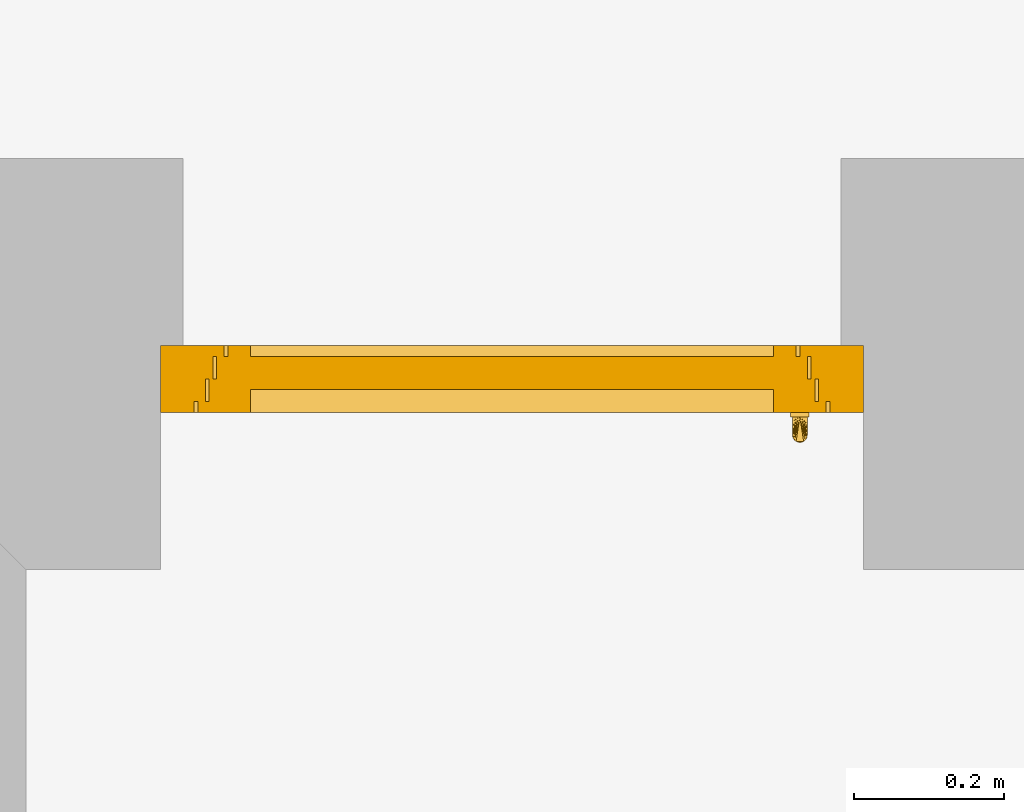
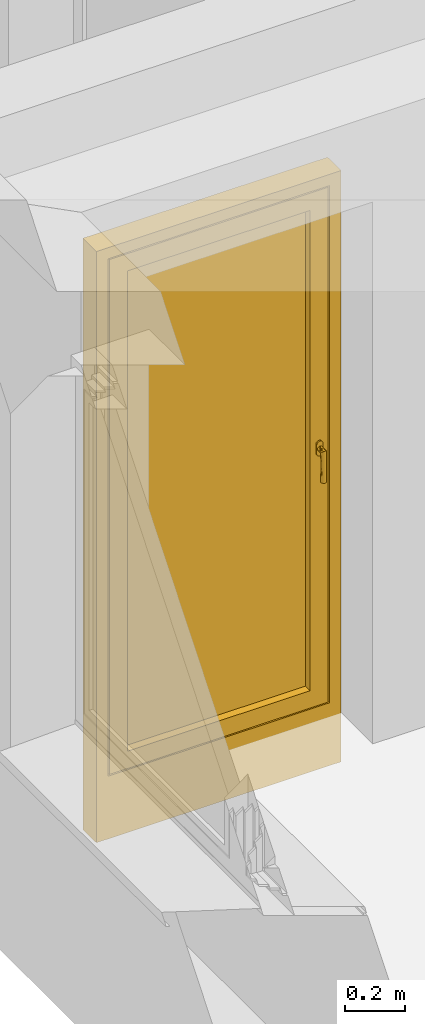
# One storey, part 12 of 18: 1 window.
"""IFC2X3 building model written with IfcOpenShell, lengths in metres."""

from ifc_helpers import new_model, entity, si_unit, converted_unit, derived_unit, direction, frame, origin, origin_2d_with_axis, place, context, subcontext, project, spatial, rectangle, extrude, faceted_brep, source, transform, mapped, material, material_list, type_object, type_shapes, element, save


model = new_model("IFC2X3")

# Units and contexts
model_context = context("Model", 3, precision=1e-05, world=origin(), true_north=direction((6.123233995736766e-17, 1.0)))
body_context = subcontext(model_context, "Body", "Model", "MODEL_VIEW")
ifc_project = project(units=[si_unit("LENGTHUNIT", "METRE"), si_unit("AREAUNIT", "SQUARE_METRE"), si_unit("VOLUMEUNIT", "CUBIC_METRE"), si_unit("POWERUNIT", "WATT"), derived_unit("USERDEFINED", [(si_unit("MASSUNIT", "GRAM", prefix="KILO"), 1), (si_unit("TIMEUNIT", "SECOND"), -3)]), derived_unit("THERMALRESISTANCEUNIT", [(si_unit("MASSUNIT", "GRAM", prefix="KILO"), -1), (si_unit("TIMEUNIT", "SECOND"), 3), (si_unit("THERMODYNAMICTEMPERATUREUNIT", "KELVIN"), 1)]), derived_unit("USERDEFINED", [(si_unit("MASSUNIT", "GRAM", prefix="KILO"), 1), (si_unit("TIMEUNIT", "SECOND"), -2), (si_unit("THERMODYNAMICTEMPERATUREUNIT", "KELVIN"), -1)]), derived_unit("THERMALTRANSMITTANCEUNIT", [(si_unit("MASSUNIT", "GRAM", prefix="KILO"), 1), (si_unit("TIMEUNIT", "SECOND"), -3), (si_unit("THERMODYNAMICTEMPERATUREUNIT", "KELVIN"), -1)]), converted_unit("PLANEANGLEUNIT", "DEGREE", entity("IfcPlaneAngleMeasure", 0.017453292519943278), si_unit("PLANEANGLEUNIT", "RADIAN"), dimensions=[0, 0, 0, 0, 0, 0, 0]), derived_unit("MOMENTOFINERTIAUNIT", [(si_unit("LENGTHUNIT", "METRE"), 4)])], contexts=[model_context])

# Site, building, storey
site_placement = place(None, origin())
site = spatial("IfcSite", under=ifc_project, at=site_placement, Name="Default", CompositionType="ELEMENT")
building_placement = place(site_placement, origin())
building = spatial("IfcBuilding", under=site, at=building_placement, CompositionType="ELEMENT")
storey_placement = place(building_placement, frame((0.0, 0.0, 2.6)))
storey = spatial("IfcBuildingStorey", under=building, at=storey_placement, Name="Erdgeschoss", CompositionType="ELEMENT", Elevation=2.6)

# Window
ifc_material_1 = material(Name="Glas - Isolierverglasung klar")
ifc_material_2 = material(Name="Metall - Edelstahl gebürstet")
ifc_material_3 = material(Name="Kunststoff - grau 70-70-70")
ifc_material_list = material_list([ifc_material_1, ifc_material_2, ifc_material_3])
window_style = type_object("IfcWindowStyle", Name="FE TÜR 1 tlg - DrehKipp:940 x 2200", ConstructionType="NOTDEFINED", OperationType="NOTDEFINED", ParameterTakesPrecedence=False, Sizeable=False, material=ifc_material_list)
shared_shape = source(origin(), body_context, "Body", "SolidModel", [
    extrude(rectangle(XDim=0.04399999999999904, YDim=0.7000000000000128, at=origin_2d_with_axis()), frame((0.47000000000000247, 0.26300000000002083, 0.3300000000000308), z_axis=(0.0, 0.0, 1.0), x_axis=(0.0, -1.0, 0.0)), (0.0, 0.0, 1.0), 1.949999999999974),
    faceted_brep([(0.8670740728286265, 0.21000000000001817, 1.2842647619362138), (0.8658253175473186, 0.21000000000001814, 1.2812499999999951), (0.863838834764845, 0.21000000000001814, 1.2786611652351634), (0.8612500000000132, 0.21000000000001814, 1.2766746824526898), (0.8582352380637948, 0.21000000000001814, 1.2754259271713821), (0.8550000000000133, 0.21000000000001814, 1.2749999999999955), (0.8517647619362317, 0.21000000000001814, 1.2754259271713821), (0.8487500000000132, 0.21000000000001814, 1.2766746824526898), (0.8461611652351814, 0.21000000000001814, 1.2786611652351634), (0.8441746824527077, 0.21000000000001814, 1.2812499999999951), (0.8429259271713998, 0.21000000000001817, 1.2842647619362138), (0.8425000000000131, 0.21000000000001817, 1.2874999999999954), (0.8425000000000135, 0.21000000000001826, 1.3049999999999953), (0.8425000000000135, 0.21000000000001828, 1.3224999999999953), (0.8429259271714, 0.2100000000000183, 1.3257352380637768), (0.8441746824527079, 0.2100000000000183, 1.3287499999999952), (0.8461611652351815, 0.2100000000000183, 1.3313388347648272), (0.8487500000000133, 0.2100000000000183, 1.3333253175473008), (0.8517647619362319, 0.2100000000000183, 1.3345740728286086), (0.8550000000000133, 0.2100000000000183, 1.3349999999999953), (0.8582352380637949, 0.2100000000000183, 1.3345740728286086), (0.8612500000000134, 0.2100000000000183, 1.3333253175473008), (0.8638388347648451, 0.2100000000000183, 1.3313388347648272), (0.8658253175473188, 0.2100000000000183, 1.3287499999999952), (0.8670740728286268, 0.2100000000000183, 1.3257352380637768), (0.8675000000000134, 0.21000000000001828, 1.3224999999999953), (0.8675000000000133, 0.21000000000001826, 1.3049999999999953), (0.8675000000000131, 0.21000000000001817, 1.2874999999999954), (0.864659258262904, 0.17741180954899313, 1.3075881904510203), (0.8600000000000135, 0.20400000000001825, 1.3136602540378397), (0.8636602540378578, 0.17500000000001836, 1.3099999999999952), (0.8575881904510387, 0.20400000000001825, 1.314659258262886), (0.8620710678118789, 0.17292893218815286, 1.3120710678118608), (0.8575881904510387, 0.1703407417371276, 1.314659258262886), (0.8600000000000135, 0.1713397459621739, 1.3136602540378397), (0.8500000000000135, 0.17133974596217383, 1.31366025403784), (0.8524118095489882, 0.17034074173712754, 1.3146592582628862), (0.8550000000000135, 0.17000000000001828, 1.3149999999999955), (0.8550000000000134, 0.20400000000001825, 1.3149999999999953), (0.864659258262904, 0.20400000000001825, 1.3075881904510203), (0.8650000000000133, 0.18000000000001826, 1.3049999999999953), (0.8650000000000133, 0.18292891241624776, 1.3049999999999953), (0.8650000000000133, 0.18585782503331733, 1.3049999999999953), (0.8650000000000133, 0.19171565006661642, 1.3049999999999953), (0.8650000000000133, 0.20400000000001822, 1.3049999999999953), (0.8636602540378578, 0.20400000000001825, 1.3099999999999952), (0.8620710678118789, 0.20400000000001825, 1.3120710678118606), (0.8479289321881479, 0.1729289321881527, 1.3120710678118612), (0.8453407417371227, 0.1774118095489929, 1.307588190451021), (0.846339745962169, 0.17500000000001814, 1.3099999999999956), (0.8500000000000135, 0.20400000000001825, 1.31366025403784), (0.8524118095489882, 0.20400000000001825, 1.314659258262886), (0.8450000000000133, 0.1800000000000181, 1.3049999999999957), (0.8479289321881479, 0.20400000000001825, 1.3120710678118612), (0.846339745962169, 0.20400000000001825, 1.3099999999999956), (0.8453407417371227, 0.20400000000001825, 1.307588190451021), (0.8450000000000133, 0.20400000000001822, 1.3049999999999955), (0.8450000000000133, 0.19171564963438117, 1.3049999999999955), (0.8450000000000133, 0.18585782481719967, 1.3049999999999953), (0.8450000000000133, 0.18292891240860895, 1.3049999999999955), (0.8463397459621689, 0.1850000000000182, 1.2999999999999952), (0.8479289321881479, 0.1870710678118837, 1.2979289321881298), (0.8453407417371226, 0.18258819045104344, 1.3024118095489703), (0.8453407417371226, 0.20400000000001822, 1.30241180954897), (0.8636602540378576, 0.18500000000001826, 1.2999999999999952), (0.864659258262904, 0.18258819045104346, 1.30241180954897), (0.864659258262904, 0.20400000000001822, 1.30241180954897), (0.8479289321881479, 0.2040000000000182, 1.2979289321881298), (0.8524118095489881, 0.18965925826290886, 1.2953407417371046), (0.8500000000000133, 0.18866025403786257, 1.2963397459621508), (0.8463397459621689, 0.20400000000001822, 1.2999999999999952), (0.8500000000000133, 0.2040000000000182, 1.2963397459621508), (0.8524118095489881, 0.2040000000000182, 1.2953407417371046), (0.8550000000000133, 0.2040000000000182, 1.2949999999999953), (0.8550000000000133, 0.19000000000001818, 1.2949999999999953), (0.8600000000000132, 0.1886602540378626, 1.2963397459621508), (0.8620710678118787, 0.1870710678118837, 1.2979289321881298), (0.8620710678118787, 0.2040000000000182, 1.2979289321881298), (0.8575881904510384, 0.1896592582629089, 1.2953407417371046), (0.8575881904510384, 0.2040000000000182, 1.2953407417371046), (0.8600000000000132, 0.2040000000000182, 1.2963397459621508), (0.8636602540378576, 0.20400000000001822, 1.2999999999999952), (0.8636602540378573, 0.18500000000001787, 1.1849999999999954), (0.8646592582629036, 0.18258819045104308, 1.1849999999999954), (0.8650000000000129, 0.1800000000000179, 1.1849999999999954), (0.8646592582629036, 0.17741180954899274, 1.1849999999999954), (0.8636602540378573, 0.17500000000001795, 1.1849999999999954), (0.8620710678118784, 0.17292893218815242, 1.1849999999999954), (0.860000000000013, 0.17133974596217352, 1.1849999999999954), (0.8575881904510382, 0.17034074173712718, 1.1849999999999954), (0.855000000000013, 0.17000000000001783, 1.1849999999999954), (0.8524118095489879, 0.17034074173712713, 1.1849999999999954), (0.8500000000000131, 0.1713397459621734, 1.1849999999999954), (0.8479289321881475, 0.17292893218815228, 1.1849999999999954), (0.8463397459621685, 0.17500000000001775, 1.1849999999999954), (0.8453407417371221, 0.17741180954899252, 1.1849999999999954), (0.8450000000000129, 0.18000000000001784, 1.1849999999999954), (0.8453407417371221, 0.18258819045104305, 1.1849999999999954), (0.8463397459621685, 0.18500000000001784, 1.1849999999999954), (0.8479289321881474, 0.1870710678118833, 1.1849999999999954), (0.8500000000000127, 0.1886602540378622, 1.1849999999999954), (0.8524118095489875, 0.18965925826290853, 1.1849999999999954), (0.8550000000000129, 0.19000000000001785, 1.1849999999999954), (0.8575881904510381, 0.18965925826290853, 1.1849999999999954), (0.860000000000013, 0.18866025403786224, 1.1849999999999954), (0.8620710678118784, 0.18707106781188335, 1.1849999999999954), (0.8650000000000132, 0.1800000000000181, 1.2497913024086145), (0.8650000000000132, 0.18000000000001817, 1.2773956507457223), (0.8450000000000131, 0.18000000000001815, 1.2773956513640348), (0.8450000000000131, 0.18000000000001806, 1.2497913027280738), (0.8461611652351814, 0.20400000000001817, 1.2786611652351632), (0.8441746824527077, 0.20400000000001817, 1.2812499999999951), (0.8487500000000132, 0.2040000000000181, 1.2766746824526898), (0.8517647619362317, 0.2040000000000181, 1.275425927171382), (0.8550000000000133, 0.2040000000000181, 1.2749999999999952), (0.8582352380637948, 0.2040000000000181, 1.275425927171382), (0.8612500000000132, 0.2040000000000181, 1.2766746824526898), (0.863838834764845, 0.20400000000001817, 1.2786611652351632), (0.8658253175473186, 0.20400000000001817, 1.2812499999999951), (0.8670740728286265, 0.20400000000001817, 1.2842647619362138), (0.8675000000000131, 0.2040000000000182, 1.2874999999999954), (0.8675000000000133, 0.20400000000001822, 1.3049999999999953), (0.8675000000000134, 0.2040000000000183, 1.3224999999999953), (0.8670740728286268, 0.2040000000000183, 1.3257352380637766), (0.8658253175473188, 0.20400000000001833, 1.3287499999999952), (0.8638388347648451, 0.20400000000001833, 1.3313388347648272), (0.8612500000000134, 0.20400000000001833, 1.3333253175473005), (0.8582352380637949, 0.20400000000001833, 1.3345740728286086), (0.8550000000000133, 0.20400000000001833, 1.3349999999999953), (0.8517647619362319, 0.20400000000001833, 1.3345740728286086), (0.8487500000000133, 0.20400000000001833, 1.3333253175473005), (0.8461611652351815, 0.20400000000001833, 1.3313388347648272), (0.8441746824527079, 0.20400000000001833, 1.3287499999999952), (0.8429259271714, 0.2040000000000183, 1.3257352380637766), (0.8425000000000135, 0.2040000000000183, 1.3224999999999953), (0.8425000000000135, 0.20400000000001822, 1.3049999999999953), (0.8425000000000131, 0.2040000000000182, 1.2874999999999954), (0.8429259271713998, 0.20400000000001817, 1.2842647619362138)], [[[0, 1, 2, 3, 4, 5, 6, 7, 8, 9, 10, 11, 12, 13, 14, 15, 16, 17, 18, 19, 20, 21, 22, 23, 24, 25, 26, 27]], [[28, 29, 30]], [[30, 31, 32]], [[33, 34, 35, 36, 37]], [[38, 32, 31]], [[34, 32, 38]], [[39, 40, 41, 42, 43, 44]], [[45, 40, 39]], [[40, 45, 46]], [[29, 28, 46]], [[46, 28, 40]], [[29, 31, 30]], [[38, 35, 34]], [[35, 38, 47]], [[48, 49, 50]], [[51, 49, 47]], [[52, 48, 53]], [[47, 38, 51]], [[49, 51, 50]], [[52, 53, 54]], [[55, 56, 57, 58, 59, 52]], [[55, 52, 54]], [[53, 48, 50]], [[60, 57, 61]], [[59, 58, 62, 52]], [[56, 63, 57]], [[64, 43, 42]], [[41, 40, 65, 42]], [[44, 43, 66]], [[67, 68, 69]], [[67, 69, 57]], [[69, 61, 57]], [[63, 70, 57]], [[67, 71, 68]], [[67, 57, 70]], [[72, 68, 71]], [[72, 73, 74, 68]], [[75, 43, 76]], [[77, 75, 78]], [[65, 64, 42]], [[76, 43, 64]], [[79, 78, 74, 73]], [[78, 79, 80]], [[62, 58, 60]], [[43, 75, 77]], [[60, 58, 57]], [[81, 66, 43]], [[77, 81, 43]], [[77, 78, 80]], [[82, 83, 84, 85, 86, 87, 88, 89, 90, 91, 92, 93, 94, 95, 96, 97, 98, 99, 100, 101, 102, 103, 104, 105]], [[85, 84, 106, 107, 40]], [[85, 40, 86]], [[34, 33, 89, 88]], [[87, 86, 28]], [[88, 87, 32, 34]], [[28, 30, 87]], [[86, 40, 28]], [[87, 30, 32]], [[33, 37, 90, 89]], [[47, 93, 92, 35]], [[35, 92, 91, 36]], [[95, 52, 108, 109, 96]], [[52, 95, 94]], [[48, 94, 93]], [[90, 37, 36, 91]], [[47, 49, 93]], [[49, 48, 93]], [[48, 52, 94]], [[99, 98, 109]], [[97, 109, 98]], [[109, 68, 101]], [[101, 100, 109]], [[100, 99, 109]], [[96, 109, 97]], [[108, 52, 62]], [[108, 62, 60]], [[102, 101, 68, 74]], [[68, 109, 69]], [[61, 69, 109]], [[60, 61, 108]], [[65, 107, 64]], [[108, 61, 109]], [[104, 106, 105]], [[103, 106, 104]], [[83, 106, 84]], [[107, 65, 40]], [[82, 106, 83]], [[105, 106, 82]], [[103, 102, 74, 78]], [[78, 106, 103]], [[75, 76, 106]], [[76, 107, 106]], [[106, 78, 75]], [[76, 64, 107]], [[110, 73, 111]], [[112, 73, 110]], [[112, 113, 73]], [[114, 73, 113]], [[115, 73, 114]], [[115, 116, 73]], [[117, 73, 116]], [[117, 118, 73]], [[118, 79, 73]], [[79, 118, 119]], [[119, 120, 79]], [[120, 80, 79]], [[120, 77, 80]], [[77, 120, 81]], [[81, 120, 121]], [[66, 81, 121]], [[44, 66, 121]], [[39, 44, 121]], [[45, 39, 121]], [[45, 121, 122]], [[122, 46, 45]], [[122, 29, 46]], [[122, 31, 29]], [[122, 123, 31]], [[124, 31, 123]], [[124, 38, 31]], [[125, 38, 124]], [[38, 125, 126]], [[38, 126, 127]], [[127, 128, 38]], [[128, 129, 38]], [[38, 129, 130]], [[130, 131, 38]], [[132, 38, 131]], [[38, 132, 51]], [[51, 132, 133]], [[134, 51, 133]], [[134, 50, 51]], [[134, 53, 50]], [[134, 54, 53]], [[134, 135, 54]], [[55, 54, 135]], [[135, 56, 55]], [[63, 56, 135]], [[70, 63, 135]], [[136, 70, 135]], [[136, 67, 70]], [[136, 71, 67]], [[71, 136, 72]], [[72, 136, 137]], [[111, 72, 137]], [[111, 73, 72]], [[13, 134, 133, 14]], [[14, 133, 132, 15]], [[17, 16, 131, 130]], [[131, 16, 15, 132]], [[18, 17, 130, 129]], [[18, 129, 128, 19]], [[19, 128, 127, 20]], [[20, 127, 126, 21]], [[23, 22, 125, 124]], [[125, 22, 21, 126]], [[24, 23, 124, 123]], [[24, 123, 122, 25]], [[26, 25, 122, 121, 120, 27]], [[27, 120, 119, 0]], [[0, 119, 118, 1]], [[3, 2, 117, 116]], [[117, 2, 1, 118]], [[4, 3, 116, 115]], [[4, 115, 114, 5]], [[5, 114, 113, 6]], [[6, 113, 112, 7]], [[9, 8, 110, 111]], [[110, 8, 7, 112]], [[10, 9, 111, 137]], [[10, 137, 136, 11]], [[12, 11, 136, 135, 134, 13]]]),
    faceted_brep([(0.12000000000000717, 0.21000000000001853, 2.2799999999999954), (0.12000000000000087, 0.21000000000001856, 0.3299999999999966), (0.12000000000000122, 0.30000000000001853, 0.32999999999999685), (0.12000000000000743, 0.30000000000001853, 2.2799999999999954), (0.8200000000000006, 0.30000000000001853, 0.3299999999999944), (0.8200000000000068, 0.30000000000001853, 2.279999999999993), (0.09000000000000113, 0.30000000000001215, 0.29999999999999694), (0.09000000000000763, 0.30000000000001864, 2.3099999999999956), (0.8500000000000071, 0.30000000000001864, 2.309999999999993), (0.8500000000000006, 0.30000000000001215, 0.2999999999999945), (0.820000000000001, 0.21000000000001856, 0.32999999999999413), (0.8200000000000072, 0.21000000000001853, 2.279999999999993), (0.05000000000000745, 0.21000000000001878, 2.3499999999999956), (0.050000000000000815, 0.21000000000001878, 0.2599999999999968), (0.8900000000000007, 0.21000000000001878, 0.25999999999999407), (0.8900000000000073, 0.21000000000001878, 2.349999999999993), (0.05000000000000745, 0.2250000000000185, 2.3499999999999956), (0.05000000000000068, 0.2250000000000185, 0.2599999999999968), (0.8900000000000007, 0.2250000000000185, 0.2599999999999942), (0.8900000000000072, 0.2250000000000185, 2.349999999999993), (0.06500000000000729, 0.22500000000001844, 2.334999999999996), (0.06500000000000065, 0.22500000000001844, 0.27499999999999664), (0.8750000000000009, 0.22500000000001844, 0.2749999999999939), (0.8750000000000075, 0.22500000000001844, 2.3349999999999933), (0.06500000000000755, 0.25500000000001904, 2.334999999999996), (0.06500000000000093, 0.25500000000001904, 0.27499999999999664), (0.8750000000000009, 0.25500000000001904, 0.27499999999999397), (0.8750000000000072, 0.25500000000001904, 2.3349999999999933), (0.07500000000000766, 0.255000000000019, 2.3249999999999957), (0.07500000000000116, 0.255000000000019, 0.2849999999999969), (0.8650000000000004, 0.255000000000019, 0.28499999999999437), (0.865000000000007, 0.255000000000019, 2.324999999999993), (0.07500000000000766, 0.2850000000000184, 2.3249999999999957), (0.07500000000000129, 0.2850000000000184, 0.2849999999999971), (0.8650000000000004, 0.2850000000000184, 0.2849999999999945), (0.865000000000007, 0.2850000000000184, 2.324999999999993), (0.09000000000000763, 0.2850000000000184, 2.3099999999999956), (0.09000000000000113, 0.2850000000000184, 0.29999999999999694), (0.8500000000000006, 0.2850000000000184, 0.2999999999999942), (0.8500000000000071, 0.2850000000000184, 2.309999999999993)], [[[0, 1, 2, 3]], [[3, 2, 4, 5], [6, 7, 8, 9]], [[1, 10, 4, 2]], [[1, 0, 11, 10], [12, 13, 14, 15]], [[16, 17, 13, 12]], [[17, 18, 14, 13]], [[17, 16, 19, 18], [20, 21, 22, 23]], [[24, 25, 21, 20]], [[25, 26, 22, 21]], [[25, 24, 27, 26], [28, 29, 30, 31]], [[32, 33, 29, 28]], [[33, 34, 30, 29]], [[33, 32, 35, 34], [36, 37, 38, 39]], [[7, 6, 37, 36]], [[6, 9, 38, 37]], [[10, 11, 5, 4]], [[18, 19, 15, 14]], [[26, 27, 23, 22]], [[34, 35, 31, 30]], [[9, 8, 39, 38]], [[11, 0, 3, 5]], [[19, 16, 12, 15]], [[27, 24, 20, 23]], [[35, 32, 28, 31]], [[8, 7, 36, 39]]], outer=[[True], [False, True], [True], [False, True], [True], [True], [True, False], [True], [True], [True, False], [True], [True], [True, False], [True], [True], [True], [True], [True], [True], [True], [True], [True], [True], [True], [True]]),
    faceted_brep([(0.9399999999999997, 0.30000000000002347, 0.0), (0.9399999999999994, 0.21000000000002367, 0.0), (0.0, 0.21000000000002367, 0.0), (0.0, 0.30000000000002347, 0.0), (0.9399999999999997, 0.30000000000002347, 2.4000000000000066), (0.9399999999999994, 0.21000000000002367, 2.4000000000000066), (0.894999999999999, 0.21000000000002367, 2.355), (0.894999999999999, 0.21000000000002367, 0.2550000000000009), (0.04500000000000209, 0.21000000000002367, 0.2550000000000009), (0.045000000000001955, 0.21000000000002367, 2.355), (0.0, 0.21000000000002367, 2.4000000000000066), (0.0, 0.30000000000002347, 2.4000000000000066), (0.8549999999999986, 0.30000000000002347, 0.2950000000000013), (0.8549999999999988, 0.30000000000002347, 2.315), (0.08500000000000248, 0.30000000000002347, 2.315), (0.08500000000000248, 0.30000000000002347, 0.2950000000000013), (0.8549999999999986, 0.28500000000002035, 0.2950000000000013), (0.8549999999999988, 0.28500000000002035, 2.315), (0.08500000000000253, 0.28500000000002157, 0.2950000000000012), (0.08500000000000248, 0.28500000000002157, 2.315), (0.8949999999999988, 0.2250000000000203, 2.355), (0.894999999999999, 0.2250000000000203, 0.2550000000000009), (0.045000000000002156, 0.22500000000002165, 0.2550000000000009), (0.045000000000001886, 0.22500000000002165, 2.355), (0.8799999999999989, 0.22500000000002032, 2.3400000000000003), (0.8799999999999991, 0.22500000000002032, 0.27000000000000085), (0.060000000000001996, 0.2250000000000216, 0.270000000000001), (0.06000000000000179, 0.2250000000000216, 2.3400000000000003), (0.8799999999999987, 0.2550000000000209, 0.2700000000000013), (0.8799999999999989, 0.2550000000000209, 2.3400000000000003), (0.0600000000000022, 0.2550000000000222, 2.3400000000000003), (0.0600000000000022, 0.2550000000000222, 0.270000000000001), (0.8699999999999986, 0.25500000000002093, 2.33), (0.8699999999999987, 0.25500000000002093, 0.28000000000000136), (0.07000000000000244, 0.2550000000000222, 0.2800000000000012), (0.0700000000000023, 0.2550000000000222, 2.33), (0.8699999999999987, 0.28500000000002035, 0.28000000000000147), (0.8699999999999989, 0.28500000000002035, 2.33), (0.07000000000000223, 0.2850000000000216, 2.33), (0.07000000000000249, 0.2850000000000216, 0.2800000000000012)], [[[0, 1, 2, 3]], [[4, 5, 1, 0]], [[6, 7, 8, 9], [5, 10, 2, 1]], [[10, 11, 3, 2]], [[12, 13, 14, 15], [11, 4, 0, 3]], [[12, 16, 17, 13]], [[18, 15, 14, 19]], [[16, 12, 15, 18]], [[20, 21, 7, 6]], [[7, 21, 22, 8]], [[8, 22, 23, 9]], [[21, 20, 23, 22], [24, 25, 26, 27]], [[28, 29, 30, 31], [32, 33, 34, 35]], [[29, 28, 25, 24]], [[25, 28, 31, 26]], [[17, 16, 18, 19], [36, 37, 38, 39]], [[37, 36, 33, 32]], [[33, 36, 39, 34]], [[26, 31, 30, 27]], [[34, 39, 38, 35]], [[4, 11, 10, 5]], [[20, 6, 9, 23]], [[29, 24, 27, 30]], [[37, 32, 35, 38]], [[13, 17, 19, 14]]], outer=[[True], [True], [False, True], [True], [False, True], [True], [True], [True], [True], [True], [True], [True, False], [True, False], [True], [True], [False, True], [True], [True], [True], [True], [True], [True], [True], [True], [True]]),
])
type_shapes(window_style, [shared_shape])
window_placement = place(storey_placement, frame((28.28084124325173, 20.052272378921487, -0.2)))
element("IfcWindow", 1, at=window_placement, inside=storey, type_object=window_style, material=ifc_material_list, Name="FE TÜR 1 tlg - DrehKipp:940 x 2200", ObjectType="FE TÜR 1 tlg - DrehKipp:940 x 2200", OverallHeight=2.4000000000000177, OverallWidth=0.940000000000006, context=body_context, shape_type="MappedRepresentation", body=[
    mapped(shared_shape, transform((0.0, 0.0, 0.0), scale=1.0)),
])

save(model, "model.ifc")
